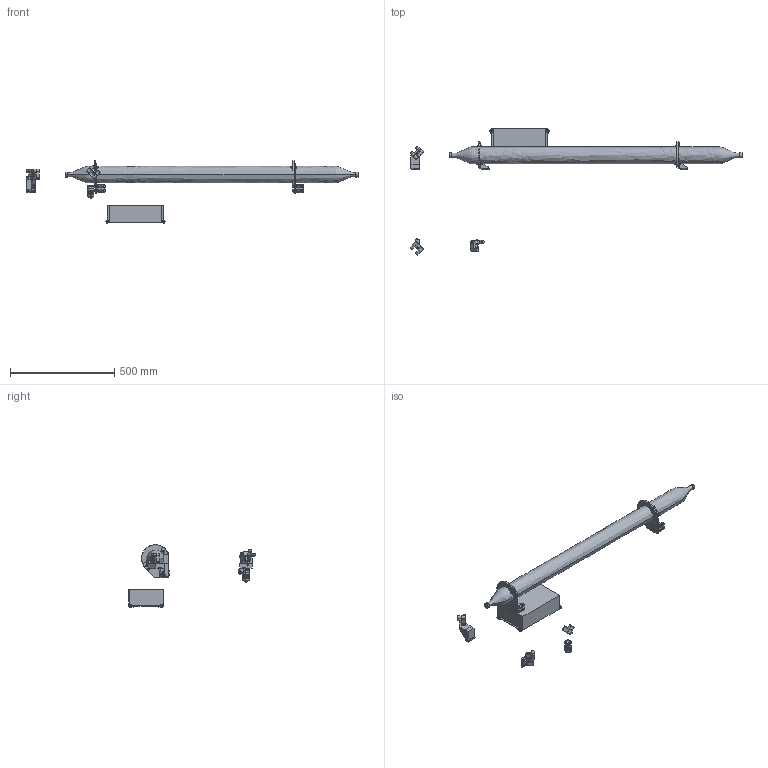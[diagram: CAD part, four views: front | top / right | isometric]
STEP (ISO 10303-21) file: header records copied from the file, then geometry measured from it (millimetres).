
FILE_DESCRIPTION(/* description */ (''),/* implementation_level */ '2;1');
FILE_NAME(/* name */ 'optics-laser',/* time_stamp */ '2013-11-26T23:56:37+01:00',/* author */ (''),/* organization */ (''),/* preprocessor_version */ 'ST-DEVELOPER v14',/* originating_system */ '',/* authorisation */ '');
FILE_SCHEMA (('AUTOMOTIVE_DESIGN'));
Length unit declared in the file: millimetre
Products named in the file (14): Document; washer DIN9021, form G, M5; screw DIN912-like, M5x08; nut tslot, post, M5; angle bracket, heavy, double; screw DIN912-like, M5x10; screw DIN912-like, M5x20; washer DIN9021-like, form G, M5; nut DIN985-like, lock, M5; screw DIN912-like, adhesive, M4x25; washer DIN9021-like, form G, M4; nut DIN985-like, lock, M4; tslot nut, pre, M4; screw ISO7380, button, M4x10
Assembly tree (92 placements, depth 2):
  Document
    washer DIN9021, form G, M5  x4
    screw DIN912-like, M5x08  x4
    nut tslot, post, M5  x20
    angle bracket, heavy, double  x2
    screw DIN912-like, M5x10  x14
    screw DIN912-like, M5x20  x10
    washer DIN9021-like, form G, M5  x8
    nut DIN985-like, lock, M5  x8
    screw DIN912-like, adhesive, M4x25  x4
    washer DIN9021-like, form G, M4  x8
    nut DIN985-like, lock, M4  x4
    tslot nut, pre, M4  x3
    screw ISO7380, button, M4x10  x3
Bounding box: 1589.54 x 604.78 x 299.17 mm (x, y, z)
Volume: 9957987 mm3; surface area: 697371.2 mm2
Topology: 107 solids, 221 shells, 2540 faces, 6236 edges, 4009 vertices
Faces by surface type: plane 1374, bspline 1166
Entity records: 73277 total; most frequent: CARTESIAN_POINT 44905, B_SPLINE_CURVE_WITH_KNOTS 4482, ORIENTED_EDGE 4128, PCURVE 4128, DEFINITIONAL_REPRESENTATION 4128, SURFACE_CURVE 2105, EDGE_CURVE 2105, VERTEX_POINT 1383
